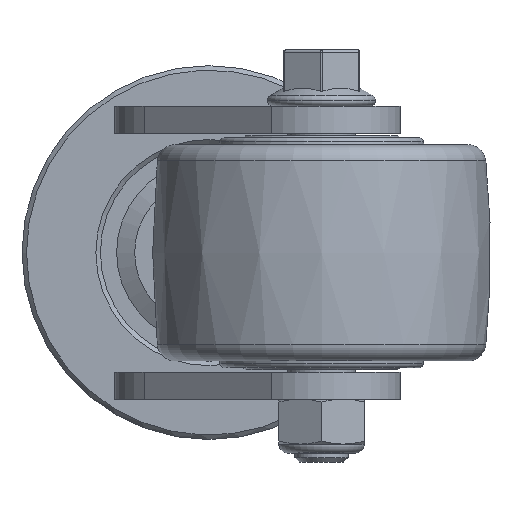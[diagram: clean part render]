
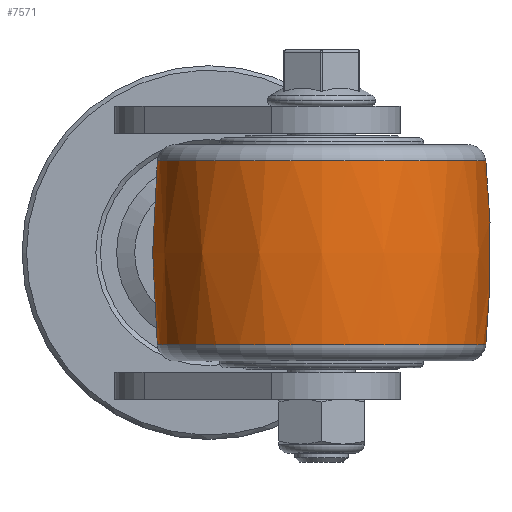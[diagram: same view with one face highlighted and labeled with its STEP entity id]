
A CAD part, front view. The second image highlights one B-rep face of the part: STEP entity #7571.
In plain terms, the highlighted free-form (B-spline) face has degree [2, 2] with [3, 9] control points.
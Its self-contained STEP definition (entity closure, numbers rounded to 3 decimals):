
#187=(
BOUNDED_SURFACE()
B_SPLINE_SURFACE(2,2,((#12491,#12492,#12493,#12494,#12495,#12496,#12497,
#12498,#12499),(#12500,#12501,#12502,#12503,#12504,#12505,#12506,#12507,
#12508),(#12509,#12510,#12511,#12512,#12513,#12514,#12515,#12516,#12517)),
 .UNSPECIFIED.,.F.,.T.,.F.)
B_SPLINE_SURFACE_WITH_KNOTS((3,3),(3,2,2,2,3),(-0.102,0.102),
(-3.142,-1.571,0.,1.571,3.142),
 .UNSPECIFIED.)
GEOMETRIC_REPRESENTATION_ITEM()
RATIONAL_B_SPLINE_SURFACE(((1.,0.707,1.,0.707,1.,
0.707,1.,0.707,1.),(0.995,0.703,
0.995,0.703,0.995,0.703,
0.995,0.703,0.995),(1.,0.707,
1.,0.707,1.,0.707,1.,0.707,1.)))
REPRESENTATION_ITEM('')
SURFACE()
);
#949=FACE_OUTER_BOUND('',#1433,.T.);
#1433=EDGE_LOOP('',(#5627,#5628,#5629,#5630));
#1929=CIRCLE('',#8256,36.456);
#1931=CIRCLE('',#8258,36.456);
#1932=CIRCLE('',#8259,200.);
#3341=VERTEX_POINT('',#12488);
#3342=VERTEX_POINT('',#12518);
#4189=EDGE_CURVE('',#3341,#3341,#1929,.T.);
#4191=EDGE_CURVE('',#3342,#3342,#1931,.T.);
#4192=EDGE_CURVE('',#3342,#3341,#1932,.T.);
#5627=ORIENTED_EDGE('',*,*,#4191,.F.);
#5628=ORIENTED_EDGE('',*,*,#4192,.T.);
#5629=ORIENTED_EDGE('',*,*,#4189,.T.);
#5630=ORIENTED_EDGE('',*,*,#4192,.F.);
#7571=ADVANCED_FACE('',(#949),#187,.F.);
#8256=AXIS2_PLACEMENT_3D('',#12489,#9223,#9224);
#8258=AXIS2_PLACEMENT_3D('',#12519,#9227,#9228);
#8259=AXIS2_PLACEMENT_3D('',#12520,#9229,#9230);
#9223=DIRECTION('center_axis',(0.,0.,-1.));
#9224=DIRECTION('ref_axis',(1.,0.,0.));
#9227=DIRECTION('center_axis',(0.,0.,-1.));
#9228=DIRECTION('ref_axis',(1.,0.,0.));
#9229=DIRECTION('center_axis',(0.,-1.,0.));
#9230=DIRECTION('ref_axis',(1.,0.,0.));
#12488=CARTESIAN_POINT('',(36.456,0.,-89.592));
#12489=CARTESIAN_POINT('Origin',(0.,0.,-89.592));
#12491=CARTESIAN_POINT('Ctrl Pts',(36.456,0.,
-89.592));
#12492=CARTESIAN_POINT('Ctrl Pts',(36.456,-36.456,-89.592));
#12493=CARTESIAN_POINT('Ctrl Pts',(0.,-36.456,
-89.592));
#12494=CARTESIAN_POINT('Ctrl Pts',(-36.456,-36.456,
-89.592));
#12495=CARTESIAN_POINT('Ctrl Pts',(-36.456,0.,
-89.592));
#12496=CARTESIAN_POINT('Ctrl Pts',(-36.456,36.456,-89.592));
#12497=CARTESIAN_POINT('Ctrl Pts',(0.,36.456,
-89.592));
#12498=CARTESIAN_POINT('Ctrl Pts',(36.456,36.456,-89.592));
#12499=CARTESIAN_POINT('Ctrl Pts',(36.456,0.,
-89.592));
#12500=CARTESIAN_POINT('Ctrl Pts',(38.549,0.,
-110.));
#12501=CARTESIAN_POINT('Ctrl Pts',(38.549,-38.549,-110.));
#12502=CARTESIAN_POINT('Ctrl Pts',(0.,-38.549,
-110.));
#12503=CARTESIAN_POINT('Ctrl Pts',(-38.549,-38.549,
-110.));
#12504=CARTESIAN_POINT('Ctrl Pts',(-38.549,0.,
-110.));
#12505=CARTESIAN_POINT('Ctrl Pts',(-38.549,38.549,-110.));
#12506=CARTESIAN_POINT('Ctrl Pts',(0.,38.549,
-110.));
#12507=CARTESIAN_POINT('Ctrl Pts',(38.549,38.549,-110.));
#12508=CARTESIAN_POINT('Ctrl Pts',(38.549,0.,
-110.));
#12509=CARTESIAN_POINT('Ctrl Pts',(36.456,0.,
-130.408));
#12510=CARTESIAN_POINT('Ctrl Pts',(36.456,-36.456,-130.408));
#12511=CARTESIAN_POINT('Ctrl Pts',(0.,-36.456,
-130.408));
#12512=CARTESIAN_POINT('Ctrl Pts',(-36.456,-36.456,
-130.408));
#12513=CARTESIAN_POINT('Ctrl Pts',(-36.456,0.,
-130.408));
#12514=CARTESIAN_POINT('Ctrl Pts',(-36.456,36.456,-130.408));
#12515=CARTESIAN_POINT('Ctrl Pts',(0.,36.456,
-130.408));
#12516=CARTESIAN_POINT('Ctrl Pts',(36.456,36.456,-130.408));
#12517=CARTESIAN_POINT('Ctrl Pts',(36.456,0.,
-130.408));
#12518=CARTESIAN_POINT('',(36.456,0.,-130.408));
#12519=CARTESIAN_POINT('Origin',(0.,0.,-130.408));
#12520=CARTESIAN_POINT('Origin',(-162.5,0.,-110.));
